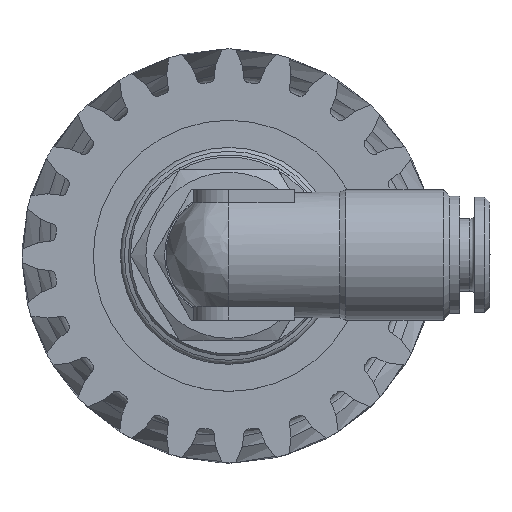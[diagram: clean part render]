
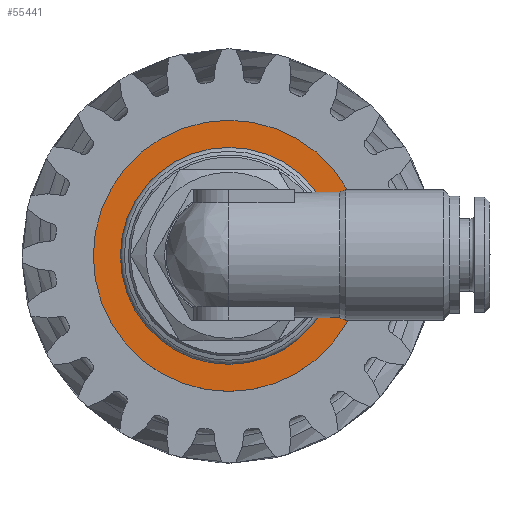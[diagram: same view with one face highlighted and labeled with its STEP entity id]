
A CAD part, top view. The second image highlights one B-rep face of the part: STEP entity #55441.
In plain terms, the highlighted planar face has unit normal (0, 0, 1) as drawn and (0, 1, 0) by its records, which use the part's own axes.
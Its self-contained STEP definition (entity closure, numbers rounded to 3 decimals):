
#1390 = CIRCLE ( 'NONE', #19336, 10.8 ) ;
#1594 = DIRECTION ( 'NONE',  ( 0., 0., 1. ) ) ;
#15718 = CARTESIAN_POINT ( 'NONE',  ( 0., 0.6, 13.5 ) ) ;
#19336 = AXIS2_PLACEMENT_3D ( 'NONE', #22162, #21858, #31881 ) ;
#19780 = VERTEX_POINT ( 'NONE', #15718 ) ;
#20106 = EDGE_CURVE ( 'NONE', #19780, #19780, #57075, .T. ) ;
#21858 = DIRECTION ( 'NONE',  ( 0., 1., 0. ) ) ;
#22162 = CARTESIAN_POINT ( 'NONE',  ( 0., 0.6, 0. ) ) ;
#22320 = ORIENTED_EDGE ( 'NONE', *, *, #52345, .F. ) ;
#22350 = ORIENTED_EDGE ( 'NONE', *, *, #20106, .T. ) ;
#26908 = FACE_OUTER_BOUND ( 'NONE', #40702, .T. ) ;
#27538 = PLANE ( 'NONE',  #47621 ) ;
#27843 = CARTESIAN_POINT ( 'NONE',  ( 13.5, 0.6, 0. ) ) ;
#31881 = DIRECTION ( 'NONE',  ( 0., 0., 1. ) ) ;
#36034 = EDGE_LOOP ( 'NONE', ( #22320 ) ) ;
#40702 = EDGE_LOOP ( 'NONE', ( #22350 ) ) ;
#44483 = VERTEX_POINT ( 'NONE', #44787 ) ;
#44787 = CARTESIAN_POINT ( 'NONE',  ( 0., 0.6, 10.8 ) ) ;
#45980 = DIRECTION ( 'NONE',  ( 0., -1., 0. ) ) ;
#47621 = AXIS2_PLACEMENT_3D ( 'NONE', #27843, #45980, #51307 ) ;
#51125 = AXIS2_PLACEMENT_3D ( 'NONE', #59379, #55325, #1594 ) ;
#51307 = DIRECTION ( 'NONE',  ( 0., 0., -1. ) ) ;
#52345 = EDGE_CURVE ( 'NONE', #44483, #44483, #1390, .T. ) ;
#55325 = DIRECTION ( 'NONE',  ( 0., 1., 0. ) ) ;
#55441 = ADVANCED_FACE ( 'NONE', ( #55967, #26908 ), #27538, .F. ) ;
#55967 = FACE_BOUND ( 'NONE', #36034, .T. ) ;
#57075 = CIRCLE ( 'NONE', #51125, 13.5 ) ;
#59379 = CARTESIAN_POINT ( 'NONE',  ( 0., 0.6, 0. ) ) ;
